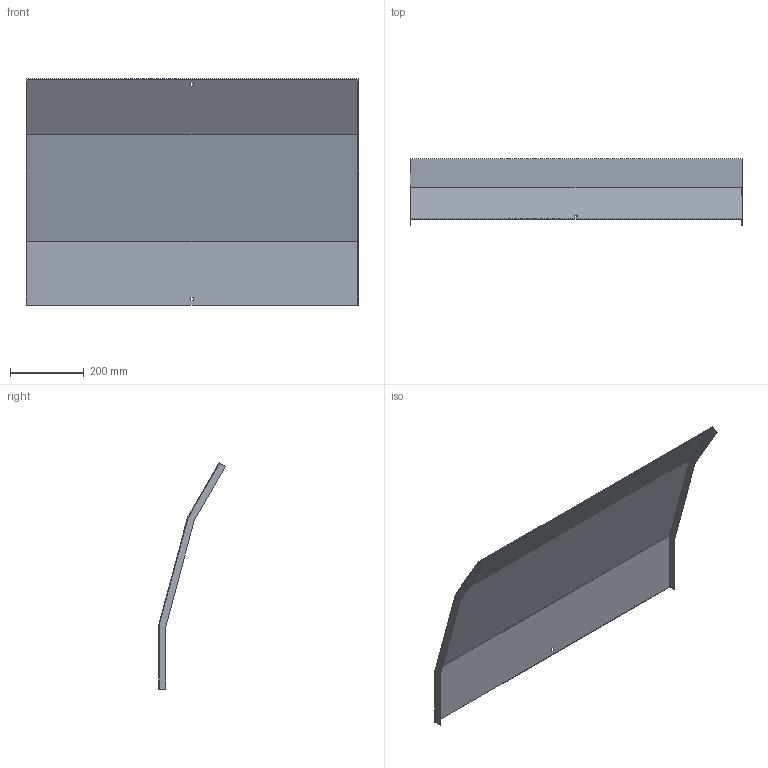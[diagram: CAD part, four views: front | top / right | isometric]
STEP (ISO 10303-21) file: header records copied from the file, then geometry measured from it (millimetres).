
FILE_DESCRIPTION (( 'STEP AP214' ), '1' );
FILE_NAME ('35N5F900.step', '2025-02-21T14:24:33', ( '' ), ( '' ), 'SwSTEP 2.0', 'SolidWorks 2023', '' );
FILE_SCHEMA (( 'AUTOMOTIVE_DESIGN' ));
Length unit declared in the file: millimetre
Products named in the file (1): 35N5F900
Bounding box: 903 x 182.13 x 615.07 mm (x, y, z)
Volume: 913405.7 mm3; surface area: 1222702.5 mm2
Topology: 1 solids, 1 shells, 26 faces, 72 edges, 48 vertices
Faces by surface type: plane 26
Entity records: 847 total; most frequent: CARTESIAN_POINT 147, ORIENTED_EDGE 144, DIRECTION 126, VECTOR 72, EDGE_CURVE 72, LINE 72, VERTEX_POINT 48, EDGE_LOOP 30
